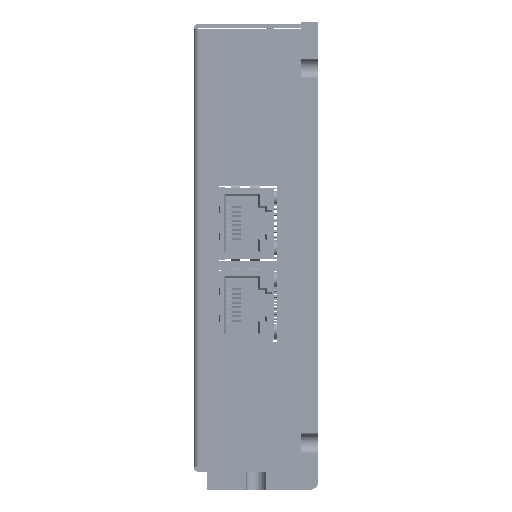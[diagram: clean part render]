
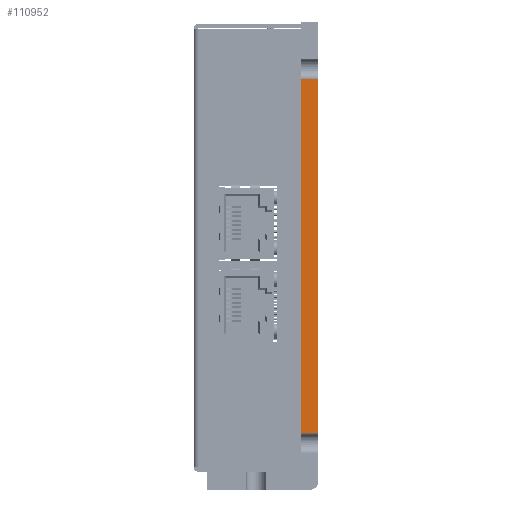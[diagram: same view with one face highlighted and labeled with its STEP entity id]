
A CAD part, left-side view. The second image highlights one B-rep face of the part: STEP entity #110952.
In plain terms, the highlighted planar face has unit normal (-1, 0, 0) as drawn and (0, 0, 1) by its records, which use the part's own axes.
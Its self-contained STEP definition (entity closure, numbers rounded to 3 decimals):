
#5442 = DIRECTION ( 'NONE',  ( 0., 1., 0. ) ) ;
#12525 = PLANE ( 'NONE',  #153983 ) ;
#13382 = VECTOR ( 'NONE', #139665, 1000. ) ;
#21506 = VERTEX_POINT ( 'NONE', #139764 ) ;
#28581 = FACE_OUTER_BOUND ( 'NONE', #340894, .T. ) ;
#35318 = VERTEX_POINT ( 'NONE', #138590 ) ;
#39162 = DIRECTION ( 'NONE',  ( 0., 0., -1. ) ) ;
#47488 = EDGE_CURVE ( 'NONE', #94581, #21506, #96993, .T. ) ;
#80450 = VECTOR ( 'NONE', #147901, 1000. ) ;
#82674 = CARTESIAN_POINT ( 'NONE',  ( 92.25, 0., 75.25 ) ) ;
#86483 = CARTESIAN_POINT ( 'NONE',  ( 105., 4., 75.25 ) ) ;
#92860 = LINE ( 'NONE', #163842, #225188 ) ;
#94581 = VERTEX_POINT ( 'NONE', #254712 ) ;
#96993 = LINE ( 'NONE', #271520, #80450 ) ;
#110952 = ADVANCED_FACE ( 'NONE', ( #28581 ), #12525, .F. ) ;
#138590 = CARTESIAN_POINT ( 'NONE',  ( 12.75, 4., 75.25 ) ) ;
#139665 = DIRECTION ( 'NONE',  ( -1., 0., 0. ) ) ;
#139764 = CARTESIAN_POINT ( 'NONE',  ( 92.25, 0., 75.25 ) ) ;
#141041 = EDGE_CURVE ( 'NONE', #94581, #35318, #92860, .T. ) ;
#147901 = DIRECTION ( 'NONE',  ( 1., 0., 0. ) ) ;
#153983 = AXIS2_PLACEMENT_3D ( 'NONE', #197398, #39162, #224073 ) ;
#154059 = LINE ( 'NONE', #86483, #13382 ) ;
#154373 = CARTESIAN_POINT ( 'NONE',  ( 92.25, 4., 75.25 ) ) ;
#163842 = CARTESIAN_POINT ( 'NONE',  ( 12.75, 0., 75.25 ) ) ;
#168499 = LINE ( 'NONE', #82674, #300737 ) ;
#197179 = EDGE_CURVE ( 'NONE', #314726, #35318, #154059, .T. ) ;
#197398 = CARTESIAN_POINT ( 'NONE',  ( 0., 25., 75.25 ) ) ;
#204420 = ORIENTED_EDGE ( 'NONE', *, *, #141041, .F. ) ;
#224073 = DIRECTION ( 'NONE',  ( -1., 0., 0. ) ) ;
#225188 = VECTOR ( 'NONE', #5442, 1000. ) ;
#241040 = DIRECTION ( 'NONE',  ( 0., 1., 0. ) ) ;
#254712 = CARTESIAN_POINT ( 'NONE',  ( 12.75, 0., 75.25 ) ) ;
#271520 = CARTESIAN_POINT ( 'NONE',  ( 0., 0., 75.25 ) ) ;
#281714 = EDGE_CURVE ( 'NONE', #21506, #314726, #168499, .T. ) ;
#300737 = VECTOR ( 'NONE', #241040, 1000. ) ;
#300847 = ORIENTED_EDGE ( 'NONE', *, *, #47488, .T. ) ;
#314726 = VERTEX_POINT ( 'NONE', #154373 ) ;
#329975 = ORIENTED_EDGE ( 'NONE', *, *, #281714, .T. ) ;
#339334 = ORIENTED_EDGE ( 'NONE', *, *, #197179, .T. ) ;
#340894 = EDGE_LOOP ( 'NONE', ( #339334, #204420, #300847, #329975 ) ) ;
